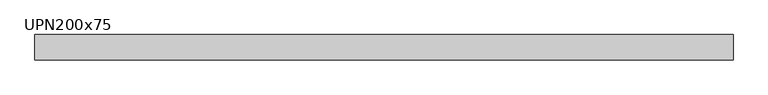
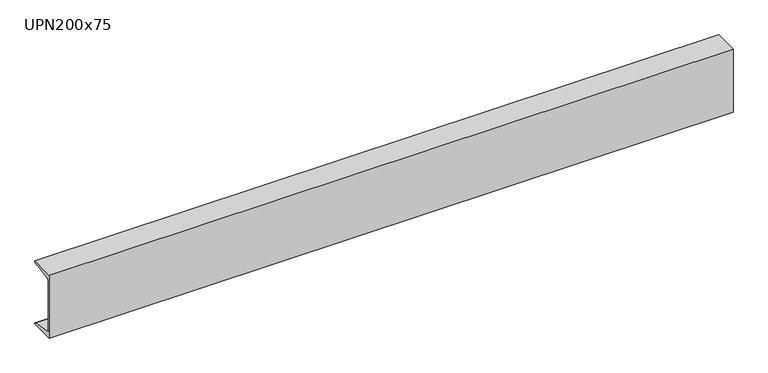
"""IFC4 building model written with IfcOpenShell, lengths in millimetres: beam geometry, M_MC Shapes : UPN200x75."""

from ifc_helpers import new_model, si_unit, point, frame, frame_2d, origin, place, context, project, spatial, polyline, circle_curve, trimmed, segment, composite_curve, outline, extrude, source, transform, mapped, element, save


def upn200x75_1c1293da(model_context):
    return source(origin(), model_context, "Body", "SweptSolid", [
        extrude(outline(composite_curve([segment(polyline([(-10.9, 100.0), (64.1, 100.0), (64.1, 99.0253247)]), True, "CONTINUOUS"), segment(trimmed(circle_curve(frame_2d((60.15, 99.0253247)), 3.95), [point((64.1, 99.0253247))], [point((60.7993773, 95.1290689))], False, "CARTESIAN"), True, "CONTINUOUS"), segment(polyline([(60.7993773, 95.1290689), (0.2512455, 85.0376935)]), True, "CONTINUOUS"), segment(trimmed(circle_curve(frame_2d((1.55, 77.2451819)), 7.9), [point((0.2512455, 85.0376935))], [point((-6.35, 77.2451819))], True, "CARTESIAN"), True, "CONTINUOUS"), segment(polyline([(-6.35, 77.2451819), (-6.35, -77.2451819)]), True, "CONTINUOUS"), segment(trimmed(circle_curve(frame_2d((1.55, -77.2451819)), 7.9), [point((-6.35, -77.2451819))], [point((0.2512455, -85.0376935))], True, "CARTESIAN"), True, "CONTINUOUS"), segment(polyline([(0.2512455, -85.0376935), (60.7993773, -95.1290689)]), True, "CONTINUOUS"), segment(trimmed(circle_curve(frame_2d((60.15, -99.0253247)), 3.95), [point((60.7993773, -95.1290689))], [point((64.1, -99.0253247))], False, "CARTESIAN"), True, "CONTINUOUS"), segment(polyline([(64.1, -99.0253247), (64.1, -100.0), (-10.9, -100.0), (-10.9, 100.0)]), True, "CONTINUOUS")], self_intersect=False)), frame((-1028.55, 0.0, 0.0), z_axis=(1.0, 0.0, 0.0), x_axis=(0.0, 1.0, 0.0)), (0.0, 0.0, 1.0), 2057.1),
    ])


if __name__ == "__main__":
    model = new_model("IFC4")
    model_context = context("Model", 3, world=origin())
    ifc_project = project(units=[si_unit("LENGTHUNIT", "METRE", prefix="MILLI")], contexts=[model_context])
    site = spatial("IfcSite", under=ifc_project)
    building = spatial("IfcBuilding", under=site)
    placement = place(None, origin())
    upn200x75_shape = upn200x75_1c1293da(model_context)
    element("IfcBeam", 1, ObjectType="M_MC Shapes : UPN200x75", at=placement, inside=building, context=model_context, shape_type="MappedRepresentation", body=[
        mapped(upn200x75_shape, transform((0.0, 0.0, 0.0), x_axis=(1.0, 0.0, 0.0), y_axis=(0.0, 1.0, 0.0), z_axis=(0.0, 0.0, 1.0))),
    ])
    save(model, "model.ifc")
